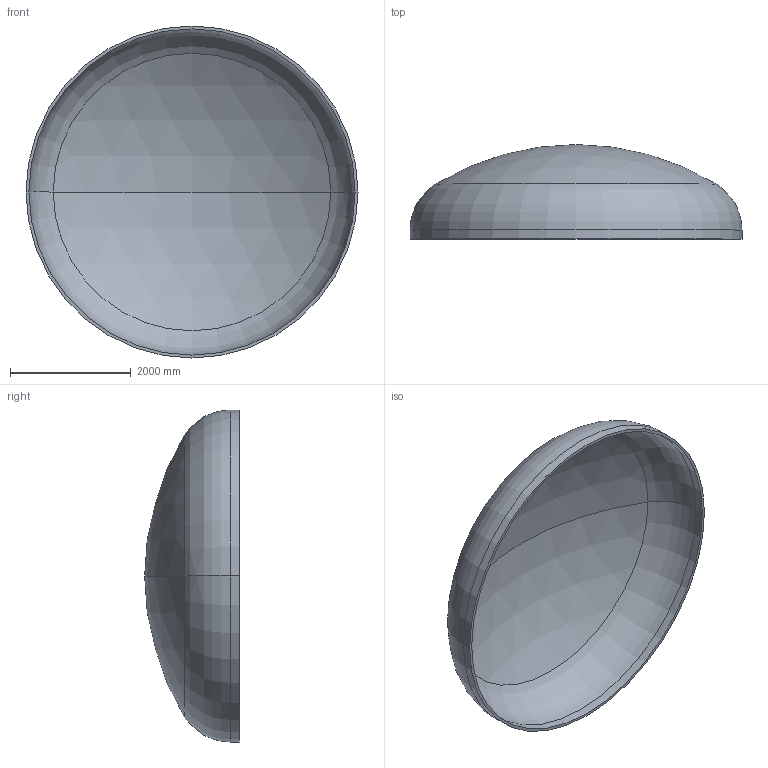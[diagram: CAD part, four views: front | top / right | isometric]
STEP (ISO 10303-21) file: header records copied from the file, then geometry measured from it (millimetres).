
FILE_DESCRIPTION (( 'STEP AP203' ), '1' );
FILE_NAME ('DIN 28013 Korbbogenform_-_Boden DIN 28013 - 5500 x 150 - I - s=48.step', '2016-07-04T10:34:21', ( '' ), ( '' ), 'SwSTEP 2.0', 'SolidWorks 2013', '' );
FILE_SCHEMA (( 'CONFIG_CONTROL_DESIGN' ));
Length unit declared in the file: millimetre
Products named in the file (1): DIN 28013 Korbbogenform_-_Boden DIN 28013 - 5500 x 150 - I - s=48
Bounding box: 5500 x 1566.57 x 5500 mm (x, y, z)
Volume: 1683915507.3 mm3; surface area: 70990087.5 mm2
Topology: 1 solids, 1 shells, 13 faces, 24 edges, 14 vertices
Faces by surface type: torus 4, cylinder 4, sphere 4, plane 1
Entity records: 407 total; most frequent: DIRECTION 72, CARTESIAN_POINT 52, ORIENTED_EDGE 48, AXIS2_PLACEMENT_3D 34, EDGE_CURVE 24, CIRCLE 20, VERTEX_POINT 14, EDGE_LOOP 14
